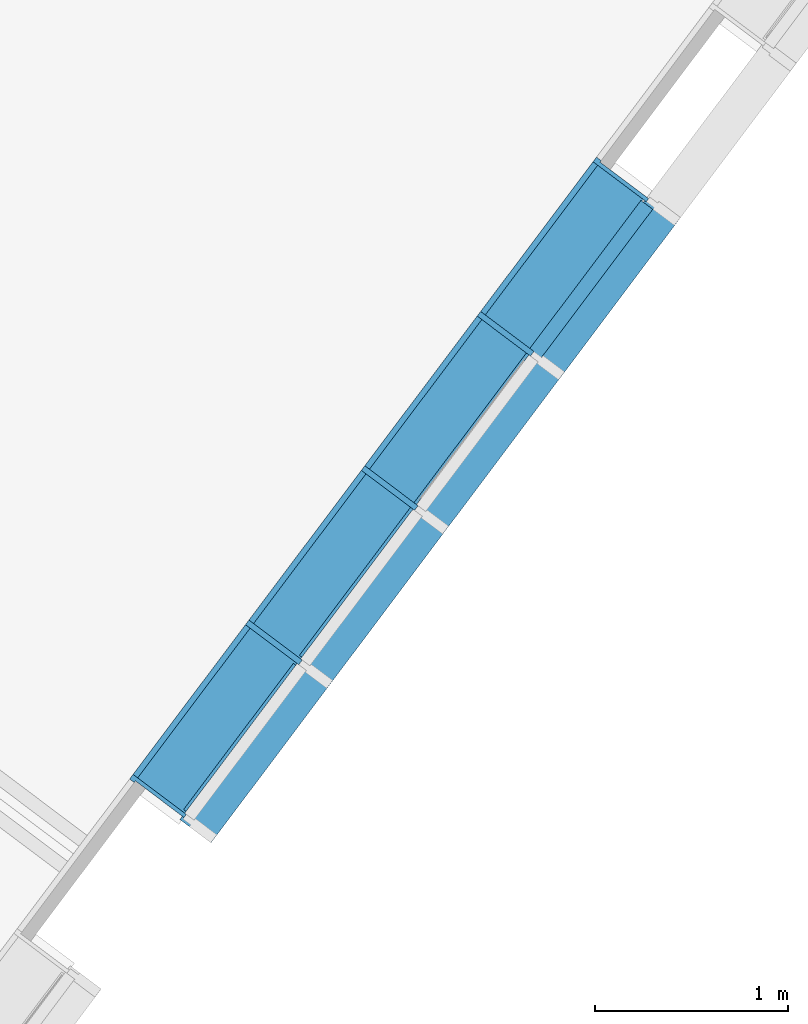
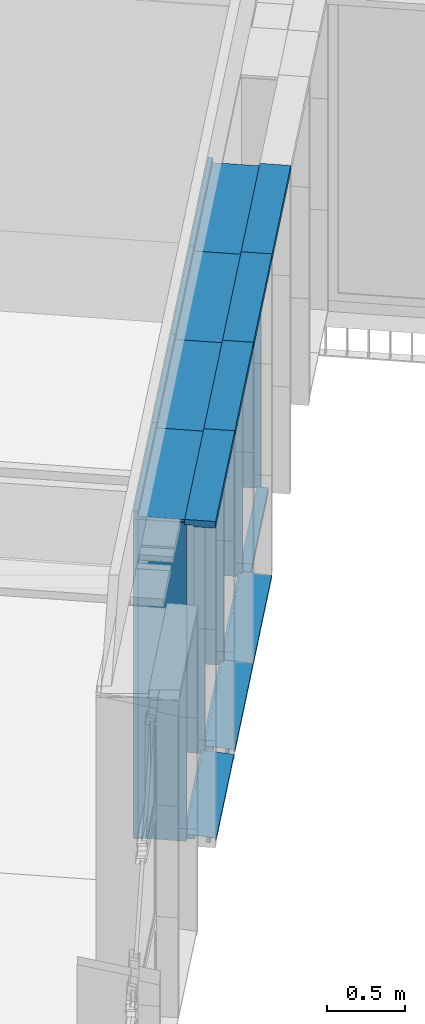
# One storey, part 67 of 243: 17 members, 2 elements without a shape of their own.
"""IFC2X3 building model written with IfcOpenShell, lengths in metres."""

from ifc_helpers import new_model, entity, si_unit, converted_unit, derived_unit, direction, frame, frame_2d, origin, origin_2d_with_axis, place, context, subcontext, project, spatial, polyline, circle_curve, parameter, trimmed, segment, composite_curve, rectangle, outline, extrude, source, transform, mapped, material, type_object, type_shapes, element, aggregate, save


model = new_model("IFC2X3")

# Units and contexts
model_context = context("Model", 3, precision=1e-05, world=origin(), true_north=direction((6.123031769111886e-17, 1.0)))
body_context = subcontext(model_context, "Body", "Model", "MODEL_VIEW")
ifc_project = project(units=[si_unit("LENGTHUNIT", "METRE"), si_unit("AREAUNIT", "SQUARE_METRE"), si_unit("VOLUMEUNIT", "CUBIC_METRE"), converted_unit("PLANEANGLEUNIT", "DEGREE", entity("IfcRatioMeasure", 0.017453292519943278), si_unit("PLANEANGLEUNIT", "RADIAN"), dimensions=[0, 0, 0, 0, 0, 0, 0]), si_unit("MASSUNIT", "GRAM", prefix="KILO"), derived_unit("MASSDENSITYUNIT", [(si_unit("MASSUNIT", "GRAM", prefix="KILO"), 1), (si_unit("LENGTHUNIT", "METRE"), -3)]), derived_unit("IONCONCENTRATIONUNIT", [(si_unit("MASSUNIT", "GRAM", prefix="KILO"), 1), (si_unit("LENGTHUNIT", "METRE"), -3)]), derived_unit("MOMENTOFINERTIAUNIT", [(si_unit("LENGTHUNIT", "METRE"), 4)]), si_unit("TIMEUNIT", "SECOND"), si_unit("FREQUENCYUNIT", "HERTZ"), si_unit("THERMODYNAMICTEMPERATUREUNIT", "DEGREE_CELSIUS"), derived_unit("THERMALTRANSMITTANCEUNIT", [(si_unit("MASSUNIT", "GRAM", prefix="KILO"), 1), (si_unit("THERMODYNAMICTEMPERATUREUNIT", "KELVIN"), -1), (si_unit("TIMEUNIT", "SECOND"), -3)]), derived_unit("THERMALCONDUCTANCEUNIT", [(si_unit("MASSUNIT", "GRAM", prefix="KILO"), 1), (si_unit("THERMODYNAMICTEMPERATUREUNIT", "KELVIN"), -1), (si_unit("TIMEUNIT", "SECOND"), -3), (si_unit("LENGTHUNIT", "METRE"), 1)]), derived_unit("VOLUMETRICFLOWRATEUNIT", [(si_unit("LENGTHUNIT", "METRE"), 3), (si_unit("TIMEUNIT", "SECOND"), -1)]), derived_unit("MASSFLOWRATEUNIT", [(si_unit("MASSUNIT", "GRAM", prefix="KILO"), 1), (si_unit("TIMEUNIT", "SECOND"), -1)]), derived_unit("ROTATIONALFREQUENCYUNIT", [(si_unit("TIMEUNIT", "SECOND"), -1)]), si_unit("ELECTRICCURRENTUNIT", "AMPERE"), si_unit("ELECTRICVOLTAGEUNIT", "VOLT"), si_unit("POWERUNIT", "WATT"), si_unit("FORCEUNIT", "NEWTON", prefix="KILO"), si_unit("ILLUMINANCEUNIT", "LUX"), si_unit("LUMINOUSFLUXUNIT", "LUMEN"), si_unit("LUMINOUSINTENSITYUNIT", "CANDELA"), derived_unit("USERDEFINED", [(si_unit("MASSUNIT", "GRAM", prefix="KILO"), -1), (si_unit("LENGTHUNIT", "METRE"), -2), (si_unit("TIMEUNIT", "SECOND"), 3), (si_unit("LUMINOUSFLUXUNIT", "LUMEN"), 1)]), derived_unit("USERDEFINED", [(si_unit("MASSUNIT", "GRAM", prefix="KILO"), 1), (si_unit("TIMEUNIT", "SECOND"), -3), (si_unit("LENGTHUNIT", "METRE"), 3), (si_unit("ELECTRICCURRENTUNIT", "AMPERE"), -2)]), derived_unit("SOUNDPOWERUNIT", [(si_unit("MASSUNIT", "GRAM", prefix="KILO"), 1), (si_unit("TIMEUNIT", "SECOND"), -3), (si_unit("LENGTHUNIT", "METRE"), 2)]), derived_unit("SOUNDPRESSUREUNIT", [(si_unit("MASSUNIT", "GRAM", prefix="KILO"), 1), (si_unit("LENGTHUNIT", "METRE"), -1), (si_unit("TIMEUNIT", "SECOND"), -2)]), derived_unit("LINEARVELOCITYUNIT", [(si_unit("LENGTHUNIT", "METRE"), 1), (si_unit("TIMEUNIT", "SECOND"), -1)]), si_unit("PRESSUREUNIT", "PASCAL"), derived_unit("USERDEFINED", [(si_unit("MASSUNIT", "GRAM", prefix="KILO"), 1), (si_unit("LENGTHUNIT", "METRE"), -2), (si_unit("TIMEUNIT", "SECOND"), -2)]), derived_unit("LINEARFORCEUNIT", [(si_unit("MASSUNIT", "GRAM", prefix="KILO"), 1), (si_unit("TIMEUNIT", "SECOND"), -2)]), derived_unit("PLANARFORCEUNIT", [(si_unit("MASSUNIT", "GRAM", prefix="KILO"), 1), (si_unit("LENGTHUNIT", "METRE"), -1), (si_unit("TIMEUNIT", "SECOND"), -2)]), derived_unit("SPECIFICHEATCAPACITYUNIT", [(si_unit("THERMODYNAMICTEMPERATUREUNIT", "KELVIN"), -1), (si_unit("LENGTHUNIT", "METRE"), 2), (si_unit("TIMEUNIT", "SECOND"), -2)]), derived_unit("HEATINGVALUEUNIT", [(si_unit("LENGTHUNIT", "METRE"), 2), (si_unit("TIMEUNIT", "SECOND"), -2)]), derived_unit("VAPORPERMEABILITYUNIT", [(si_unit("LENGTHUNIT", "METRE"), -1), (si_unit("TIMEUNIT", "SECOND"), 1)]), derived_unit("DYNAMICVISCOSITYUNIT", [(si_unit("MASSUNIT", "GRAM", prefix="KILO"), 1), (si_unit("TIMEUNIT", "SECOND"), -1), (si_unit("LENGTHUNIT", "METRE"), -1)]), derived_unit("THERMALEXPANSIONCOEFFICIENTUNIT", [(si_unit("THERMODYNAMICTEMPERATUREUNIT", "KELVIN"), -1)]), derived_unit("MODULUSOFELASTICITYUNIT", [(si_unit("MASSUNIT", "GRAM", prefix="KILO"), 1), (si_unit("LENGTHUNIT", "METRE"), -1), (si_unit("TIMEUNIT", "SECOND"), -2)]), derived_unit("ISOTHERMALMOISTURECAPACITYUNIT", [(si_unit("LENGTHUNIT", "METRE"), 3), (si_unit("MASSUNIT", "GRAM", prefix="KILO"), -1)]), derived_unit("MOISTUREDIFFUSIVITYUNIT", [(si_unit("TIMEUNIT", "SECOND"), -1), (si_unit("LENGTHUNIT", "METRE"), 2)])], contexts=[model_context])

# Site, building, storey
site_placement = place(None, frame((0.0, 0.0, 235.0), z_axis=(0.0, 0.0, 1.0), x_axis=(-0.7996477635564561, 0.6004693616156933, 0.0)))
site = spatial("IfcSite", under=ifc_project, at=site_placement, Name="Default", CompositionType="ELEMENT")
building_placement = place(site_placement, origin())
building = spatial("IfcBuilding", under=site, at=building_placement, CompositionType="ELEMENT")
storey_placement = place(building_placement, origin())
storey = spatial("IfcBuildingStorey", under=building, at=storey_placement, Name="P0- Escola", CompositionType="ELEMENT", Elevation=0.0)

# Curtain wall, members
curtain_wall_type_1 = type_object("IfcCurtainWallType", Name="Muro cortina:MC- EXT- MC2", PredefinedType="NOTDEFINED")
curtain_wall_1_placement = place(storey_placement, origin())
curtain_wall_1 = element("IfcCurtainWall", 1, at=curtain_wall_1_placement, inside=storey, type_object=curtain_wall_type_1, Name="Muro cortina:MC- EXT- MC2", ObjectType="Muro cortina:MC- EXT- MC2")
ifc_material_1 = material(Name="_Alumini- T1- Perfil")
member_type_1 = type_object("IfcMemberType", Name="Montante rectangular:MC- Alu- 140x52,5 cm- Fa patis- Superior", PredefinedType="MULLION", material=ifc_material_1)
shared_shape_1 = source(origin(), body_context, "Body", "SweptSolid", [
    extrude(outline(polyline([(-0.11366666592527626, -0.021249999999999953), (0.026333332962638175, -0.021249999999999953), (0.026333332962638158, -0.010000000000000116), (0.0873333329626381, -0.010000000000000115), (0.0873333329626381, 0.03125000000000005), (-0.11366666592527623, 0.031250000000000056), (-0.11366666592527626, -0.021249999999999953)])), frame((-0.031250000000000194, 0.0273333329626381, -1.0), z_axis=(0.0, 0.0, 1.0), x_axis=(0.0, -1.0, 0.0)), (0.0, 0.0, 1.0), 0.9999999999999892),
])
type_shapes(member_type_1, [shared_shape_1])
member_1_placement = place(curtain_wall_1_placement, frame((41.04514768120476, -32.415191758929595, 2.545), z_axis=(0.0, -1.0, 0.0), x_axis=(0.0, 0.0, 1.0)))
member_1 = element("IfcMember", 2, at=member_1_placement, type_object=member_type_1, material=ifc_material_1, Name="Montante rectangular:MC- Alu- 140x52,5 cm- Fa patis- Superior", ObjectType="Montante rectangular:MC- Alu- 140x52,5 cm- Fa patis- Superior", context=body_context, shape_type="MappedRepresentation", body=[
    mapped(shared_shape_1, transform((0.0, 0.0, 0.0), scale=1.0)),
])
member_2_placement = place(curtain_wall_1_placement, frame((41.04514768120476, -33.415191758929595, 2.545), z_axis=(0.0, -1.0, 0.0), x_axis=(0.0, 0.0, 1.0)))
member_2 = element("IfcMember", 3, at=member_2_placement, type_object=member_type_1, material=ifc_material_1, Name="Montante rectangular:MC- Alu- 140x52,5 cm- Fa patis- Superior", ObjectType="Montante rectangular:MC- Alu- 140x52,5 cm- Fa patis- Superior", context=body_context, shape_type="MappedRepresentation", body=[
    mapped(shared_shape_1, transform((0.0, 0.0, 0.0), scale=1.0)),
])
member_3_placement = place(curtain_wall_1_placement, frame((41.04514768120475, -34.41519175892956, 2.545), z_axis=(0.0, -1.0, 0.0), x_axis=(0.0, 0.0, 1.0)))
member_3 = element("IfcMember", 4, at=member_3_placement, type_object=member_type_1, material=ifc_material_1, Name="Montante rectangular:MC- Alu- 140x52,5 cm- Fa patis- Superior", ObjectType="Montante rectangular:MC- Alu- 140x52,5 cm- Fa patis- Superior", context=body_context, shape_type="MappedRepresentation", body=[
    mapped(shared_shape_1, transform((0.0, 0.0, 0.0), scale=1.0)),
])
member_type_2 = type_object("IfcMemberType", Name="Montante rectangular:MC- Alu- 140x52,5 cm- Fa patis- inferior", PredefinedType="MULLION", material=ifc_material_1)
shared_shape_2 = source(origin(), body_context, "Body", "SweptSolid", [
    extrude(outline(composite_curve([segment(polyline([(0.1278672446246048, -0.02586710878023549), (0.14416724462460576, -0.025867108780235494)]), True, "CONTINUOUS"), segment(polyline([(0.14416724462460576, -0.025867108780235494), (0.1441672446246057, 0.009132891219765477)]), True, "CONTINUOUS"), segment(polyline([(0.1441672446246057, 0.009132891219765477), (0.06786724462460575, 0.009132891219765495)]), True, "CONTINUOUS"), segment(polyline([(0.06786724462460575, 0.009132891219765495), (0.06786724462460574, -0.021159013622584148)]), True, "CONTINUOUS"), segment(polyline([(0.06786724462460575, -0.02115901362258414), (-0.030132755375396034, -0.012332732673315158)]), True, "CONTINUOUS"), segment(polyline([(-0.03013275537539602, -0.012332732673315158), (-0.030132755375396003, 0.027132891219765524)]), True, "CONTINUOUS"), segment(polyline([(-0.030132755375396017, 0.02713289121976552), (-0.0021327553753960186, 0.02713289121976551)]), True, "CONTINUOUS"), segment(polyline([(-0.0021327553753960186, 0.027132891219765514), (-0.0021327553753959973, 0.029132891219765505)]), True, "CONTINUOUS"), segment(polyline([(-0.0021327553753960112, 0.029132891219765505), (-0.032132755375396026, 0.029132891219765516)]), True, "CONTINUOUS"), segment(polyline([(-0.032132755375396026, 0.029132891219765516), (-0.03213275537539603, -0.012152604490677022)]), True, "CONTINUOUS"), segment(polyline([(-0.03213275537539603, -0.012152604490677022), (-0.0701327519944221, -0.008730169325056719)]), True, "CONTINUOUS"), segment(polyline([(-0.0701327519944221, -0.008730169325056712), (-0.0701327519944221, 0.005766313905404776)]), True, "CONTINUOUS"), segment(trimmed(circle_curve(frame_2d((-0.0696327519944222, 0.0057663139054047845), x_axis=(-1.0, 0.0)), 0.0004999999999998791), [parameter(269.999999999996)], [parameter(0.0)], True, "PARAMETER"), False, "CONTINUOUS"), segment(polyline([(-0.0696327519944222, 0.00626631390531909), (-0.06213275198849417, 0.006266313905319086)]), True, "CONTINUOUS"), segment(polyline([(-0.06213275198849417, 0.006266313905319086), (-0.06213275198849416, 0.008266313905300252)]), True, "CONTINUOUS"), segment(polyline([(-0.06213275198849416, 0.008266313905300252), (-0.07013275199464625, 0.008266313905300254)]), True, "CONTINUOUS"), segment(trimmed(circle_curve(frame_2d((-0.07013275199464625, 0.006266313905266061), x_axis=(0.0, 1.0)), 0.0020000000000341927), [parameter(0.0)], [parameter(90.00000002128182)], True, "PARAMETER"), True, "CONTINUOUS"), segment(polyline([(-0.07213275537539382, 0.006266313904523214), (-0.07213275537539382, -0.008730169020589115)]), True, "CONTINUOUS"), segment(trimmed(circle_curve(frame_2d((-0.07013275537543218, -0.008730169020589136), x_axis=(-1.0, 0.0)), 0.0019999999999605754), [parameter(0.0)], [parameter(84.85359280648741)], True, "PARAMETER"), True, "CONTINUOUS"), segment(polyline([(-0.07031215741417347, -0.01072210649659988), (0.06786724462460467, -0.023167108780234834)]), True, "CONTINUOUS"), segment(polyline([(0.06786724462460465, -0.023167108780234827), (0.12786724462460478, -0.023167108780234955)]), True, "CONTINUOUS"), segment(polyline([(0.12786724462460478, -0.023167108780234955), (0.1278672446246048, -0.02586710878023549)]), True, "CONTINUOUS")], self_intersect=False)), frame((-0.029132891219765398, 0.06786724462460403, -0.9737499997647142), z_axis=(0.0, 0.0, 1.0), x_axis=(0.0, -1.0, 0.0)), (0.0, 0.0, 1.0), 0.9737499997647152),
])
type_shapes(member_type_2, [shared_shape_2])
member_4_placement = place(curtain_wall_1_placement, frame((41.04514768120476, -31.441441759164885, -0.02), z_axis=(0.0, 1.0, 0.0), x_axis=(0.0, 0.0, -1.0)))
member_4 = element("IfcMember", 5, at=member_4_placement, type_object=member_type_2, material=ifc_material_1, Name="Montante rectangular:MC- Alu- 140x52,5 cm- Fa patis- inferior", ObjectType="Montante rectangular:MC- Alu- 140x52,5 cm- Fa patis- inferior", context=body_context, shape_type="MappedRepresentation", body=[
    mapped(shared_shape_2, transform((0.0, 0.0, 0.0), scale=1.0)),
])

curtain_wall_type_2 = type_object("IfcCurtainWallType", Name="Muro cortina:MC- INT- k7- Aules infantil", PredefinedType="NOTDEFINED")
curtain_wall_2_placement = place(storey_placement, origin())
curtain_wall_2 = element("IfcCurtainWall", 6, at=curtain_wall_2_placement, inside=storey, type_object=curtain_wall_type_2, Name="Muro cortina:MC- INT- k7- Aules infantil", ObjectType="Muro cortina:MC- INT- k7- Aules infantil")
ifc_material_2 = material(Name="_Fusta massisa- T1")
member_type_3 = type_object("IfcMemberType", Name="Montante rectangular:MC- Fusta- 35x3 cm- Centre", PredefinedType="MULLION", material=ifc_material_2)
shared_shape_3 = source(origin(), body_context, "Body", "SweptSolid", [
    extrude(rectangle(XDim=0.3450000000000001, YDim=0.030000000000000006, at=frame_2d((0.0, 1.3964523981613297e-16), x_axis=(1.0, 0.0))), frame((0.0, 0.07750000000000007, -2.5049999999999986), z_axis=(0.0, 0.0, 1.0), x_axis=(0.0, -1.0, 0.0)), (0.0, 0.0, 1.0), 2.5049999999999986),
])
type_shapes(member_type_3, [shared_shape_3])
member_5_placement = place(curtain_wall_2_placement, frame((41.345147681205, -31.415191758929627, 0.0), z_axis=(0.0, 0.0, -1.0), x_axis=(0.0, -1.0, 0.0)))
member_5 = element("IfcMember", 7, at=member_5_placement, type_object=member_type_3, material=ifc_material_2, Name="Montante rectangular:MC- Fusta- 35x3 cm- Centre", ObjectType="Montante rectangular:MC- Fusta- 35x3 cm- Centre", context=body_context, shape_type="MappedRepresentation", body=[
    mapped(shared_shape_3, transform((0.0, 0.0, 0.0), scale=1.0)),
])
member_6_placement = place(curtain_wall_2_placement, frame((41.345147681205, -32.41519175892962, 0.0), z_axis=(0.0, 0.0, -1.0), x_axis=(0.0, -1.0, 0.0)))
member_6 = element("IfcMember", 8, at=member_6_placement, type_object=member_type_3, material=ifc_material_2, Name="Montante rectangular:MC- Fusta- 35x3 cm- Centre", ObjectType="Montante rectangular:MC- Fusta- 35x3 cm- Centre", context=body_context, shape_type="MappedRepresentation", body=[
    mapped(shared_shape_3, transform((0.0, 0.0, 0.0), scale=1.0)),
])
member_7_placement = place(curtain_wall_2_placement, frame((41.345147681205, -33.41519175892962, 0.0), z_axis=(0.0, 0.0, -1.0), x_axis=(0.0, -1.0, 0.0)))
member_7 = element("IfcMember", 9, at=member_7_placement, type_object=member_type_3, material=ifc_material_2, Name="Montante rectangular:MC- Fusta- 35x3 cm- Centre", ObjectType="Montante rectangular:MC- Fusta- 35x3 cm- Centre", context=body_context, shape_type="MappedRepresentation", body=[
    mapped(shared_shape_3, transform((0.0, 0.0, 0.0), scale=1.0)),
])
member_type_4 = type_object("IfcMemberType", Name="Montante rectangular:MC- Fusta- 35x3 cm- Pati aules- Remat superior", PredefinedType="MULLION", material=ifc_material_2)
shared_shape_4 = source(origin(), body_context, "Body", "SweptSolid", [
    extrude(outline(polyline([(-0.21333333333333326, -0.02666666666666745), (0.1216666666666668, -0.02666666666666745), (0.12166666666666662, 0.03333333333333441), (0.09166666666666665, 0.03333333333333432), (0.09166666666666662, -0.006666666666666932), (-0.2133333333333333, -0.006666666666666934), (-0.21333333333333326, -0.02666666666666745)])), frame((-0.033333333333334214, 0.026666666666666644, -1.0), z_axis=(0.0, 0.0, 1.0), x_axis=(0.0, -1.0, 0.0)), (0.0, 0.0, 1.0), 0.9999999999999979),
])
type_shapes(member_type_4, [shared_shape_4])
member_8_placement = place(curtain_wall_2_placement, frame((41.345147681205, -32.41519175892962, 2.565), z_axis=(0.0, -1.0, 0.0), x_axis=(0.0, 0.0, 1.0)))
member_8 = element("IfcMember", 10, at=member_8_placement, type_object=member_type_4, material=ifc_material_2, Name="Montante rectangular:MC- Fusta- 35x3 cm- Pati aules- Remat superior", ObjectType="Montante rectangular:MC- Fusta- 35x3 cm- Pati aules- Remat superior", context=body_context, shape_type="MappedRepresentation", body=[
    mapped(shared_shape_4, transform((0.0, 0.0, 0.0), scale=1.0)),
])
member_9_placement = place(curtain_wall_2_placement, frame((41.345147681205, -33.41519175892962, 2.565), z_axis=(0.0, -1.0, 0.0), x_axis=(0.0, 0.0, 1.0)))
member_9 = element("IfcMember", 11, at=member_9_placement, type_object=member_type_4, material=ifc_material_2, Name="Montante rectangular:MC- Fusta- 35x3 cm- Pati aules- Remat superior", ObjectType="Montante rectangular:MC- Fusta- 35x3 cm- Pati aules- Remat superior", context=body_context, shape_type="MappedRepresentation", body=[
    mapped(shared_shape_4, transform((0.0, 0.0, 0.0), scale=1.0)),
])
member_type_5 = type_object("IfcMemberType", Name="Montante rectangular:MC- Fusta- 35x3 cm- Pati aules- Remat dreta", PredefinedType="MULLION", material=ifc_material_2)
shared_shape_5 = source(origin(), body_context, "Body", "SweptSolid", [
    extrude(outline(polyline([(-0.22, -0.01666666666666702), (0.12500000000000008, -0.01666666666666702), (0.12500000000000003, 0.013333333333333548), (0.09500000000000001, 0.013333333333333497), (0.09499999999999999, 0.003333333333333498), (-0.22, 0.003333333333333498), (-0.22, -0.01666666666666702)])), frame((0.0016666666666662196, 0.03000000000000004, -2.504999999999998), z_axis=(0.0, 0.0, 1.0), x_axis=(0.0, -1.0, 0.0)), (0.0, 0.0, 1.0), 2.5049999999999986),
])
type_shapes(member_type_5, [shared_shape_5])
member_10_placement = place(curtain_wall_2_placement, frame((41.345147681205, -34.41519175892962, 0.0), z_axis=(0.0, 0.0, -1.0), x_axis=(0.0, -1.0, 0.0)))
member_10 = element("IfcMember", 12, at=member_10_placement, type_object=member_type_5, material=ifc_material_2, Name="Montante rectangular:MC- Fusta- 35x3 cm- Pati aules- Remat dreta", ObjectType="Montante rectangular:MC- Fusta- 35x3 cm- Pati aules- Remat dreta", context=body_context, shape_type="MappedRepresentation", body=[
    mapped(shared_shape_5, transform((0.0, 0.0, 0.0), scale=1.0)),
])
member_type_6 = type_object("IfcMemberType", Name="Montante rectangular:MC- Fusta- 35x3 cm- Pati aules- Remat esquerra", PredefinedType="MULLION", material=ifc_material_2)
shared_shape_6 = source(origin(), body_context, "Body", "SweptSolid", [
    extrude(outline(polyline([(0.09500000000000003, -0.013333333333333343), (0.12500000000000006, -0.013333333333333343), (0.12500000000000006, 0.01666666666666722), (-0.22000000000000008, 0.016666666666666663), (-0.22000000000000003, -0.0033333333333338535), (0.09499999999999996, -0.003333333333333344), (0.09500000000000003, -0.013333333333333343)])), frame((-0.0016666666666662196, 0.03000000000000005, -2.504999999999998), z_axis=(0.0, 0.0, 1.0), x_axis=(0.0, -1.0, 0.0)), (0.0, 0.0, 1.0), 2.5049999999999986),
])
type_shapes(member_type_6, [shared_shape_6])
member_11_placement = place(curtain_wall_2_placement, frame((41.345147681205, -30.415191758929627, 0.0), z_axis=(0.0, 0.0, -1.0), x_axis=(0.0, -1.0, 0.0)))
member_11 = element("IfcMember", 13, at=member_11_placement, type_object=member_type_6, material=ifc_material_2, Name="Montante rectangular:MC- Fusta- 35x3 cm- Pati aules- Remat esquerra", ObjectType="Montante rectangular:MC- Fusta- 35x3 cm- Pati aules- Remat esquerra", context=body_context, shape_type="MappedRepresentation", body=[
    mapped(shared_shape_6, transform((0.0, 0.0, 0.0), scale=1.0)),
])
member_type_7 = type_object("IfcMemberType", Name="Montante rectangular:MC- Fusta- 35x3 cm- Pati aules- Remat superior", PredefinedType="MULLION", material=ifc_material_2)
shared_shape_7 = source(origin(), body_context, "Body", "SweptSolid", [
    extrude(outline(polyline([(-0.21333333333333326, -0.02666666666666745), (0.1216666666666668, -0.02666666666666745), (0.12166666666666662, 0.03333333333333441), (0.09166666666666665, 0.03333333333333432), (0.09166666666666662, -0.006666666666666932), (-0.2133333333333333, -0.006666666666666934), (-0.21333333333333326, -0.02666666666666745)])), frame((-0.033333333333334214, 0.026666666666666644, -1.0), z_axis=(0.0, 0.0, 1.0), x_axis=(0.0, -1.0, 0.0)), (0.0, 0.0, 1.0), 0.9999999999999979),
])
type_shapes(member_type_7, [shared_shape_7])
member_12_placement = place(curtain_wall_2_placement, frame((41.345147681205, -31.415191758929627, 2.565), z_axis=(0.0, -1.0, 0.0), x_axis=(0.0, 0.0, 1.0)))
member_12 = element("IfcMember", 14, at=member_12_placement, type_object=member_type_7, material=ifc_material_2, Name="Montante rectangular:MC- Fusta- 35x3 cm- Pati aules- Remat superior", ObjectType="Montante rectangular:MC- Fusta- 35x3 cm- Pati aules- Remat superior", context=body_context, shape_type="MappedRepresentation", body=[
    mapped(shared_shape_7, transform((0.0, 0.0, 0.0), scale=1.0)),
])
member_type_8 = type_object("IfcMemberType", Name="Montante rectangular:MC- Fusta- 35x3 cm- Pati aules- Remat superior", PredefinedType="MULLION", material=ifc_material_2)
shared_shape_8 = source(origin(), body_context, "Body", "SweptSolid", [
    extrude(outline(polyline([(-0.21333333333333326, -0.02666666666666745), (0.1216666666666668, -0.02666666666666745), (0.12166666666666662, 0.03333333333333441), (0.09166666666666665, 0.03333333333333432), (0.09166666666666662, -0.006666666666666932), (-0.2133333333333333, -0.006666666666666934), (-0.21333333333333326, -0.02666666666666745)])), frame((-0.033333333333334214, 0.026666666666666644, -1.0), z_axis=(0.0, 0.0, 1.0), x_axis=(0.0, -1.0, 0.0)), (0.0, 0.0, 1.0), 0.9999999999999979),
])
type_shapes(member_type_8, [shared_shape_8])
member_13_placement = place(curtain_wall_2_placement, frame((41.345147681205, -34.41519175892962, 2.565), z_axis=(0.0, -1.0, 0.0), x_axis=(0.0, 0.0, 1.0)))
member_13 = element("IfcMember", 15, at=member_13_placement, type_object=member_type_8, material=ifc_material_2, Name="Montante rectangular:MC- Fusta- 35x3 cm- Pati aules- Remat superior", ObjectType="Montante rectangular:MC- Fusta- 35x3 cm- Pati aules- Remat superior", context=body_context, shape_type="MappedRepresentation", body=[
    mapped(shared_shape_8, transform((0.0, 0.0, 0.0), scale=1.0)),
])
aggregate(curtain_wall_2, [member_11, member_12, member_5, member_8, member_6, member_9, member_7, member_13, member_10])

# Member
member_type_9 = type_object("IfcMemberType", Name="Montante rectangular:MC- Alu- 140x52,5 cm- Fa patis- Superior", PredefinedType="MULLION", material=ifc_material_1)
shared_shape_9 = source(origin(), body_context, "Body", "SweptSolid", [
    extrude(outline(polyline([(-0.11366666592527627, -0.021249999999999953), (0.02633333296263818, -0.021249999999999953), (0.02633333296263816, -0.010000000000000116), (0.08733333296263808, -0.010000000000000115), (0.08733333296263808, 0.03125000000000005), (-0.11366666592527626, 0.031250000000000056), (-0.11366666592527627, -0.021249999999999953)])), frame((-0.031250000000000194, 0.027333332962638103, -1.0262500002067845), z_axis=(0.0, 0.0, 1.0), x_axis=(0.0, -1.0, 0.0)), (0.0, 0.0, 1.0), 1.0262500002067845),
])
type_shapes(member_type_9, [shared_shape_9])
member_14_placement = place(curtain_wall_1_placement, frame((41.04514768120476, -31.41519175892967, 2.545), z_axis=(0.0, -1.0, 0.0), x_axis=(0.0, 0.0, 1.0)))
member_14 = element("IfcMember", 16, at=member_14_placement, type_object=member_type_9, material=ifc_material_1, Name="Montante rectangular:MC- Alu- 140x52,5 cm- Fa patis- Superior", ObjectType="Montante rectangular:MC- Alu- 140x52,5 cm- Fa patis- Superior", context=body_context, shape_type="MappedRepresentation", body=[
    mapped(shared_shape_9, transform((0.0, 0.0, 0.0), scale=1.0)),
])

member_type_10 = type_object("IfcMemberType", Name="Montante rectangular:MC- Alu- 140x52,5 cm- Fa patis- inferior", PredefinedType="MULLION", material=ifc_material_1)
shared_shape_10 = source(origin(), body_context, "Body", "SweptSolid", [
    extrude(outline(composite_curve([segment(polyline([(0.1278672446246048, -0.02586710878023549), (0.14416724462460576, -0.025867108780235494)]), True, "CONTINUOUS"), segment(polyline([(0.14416724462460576, -0.025867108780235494), (0.1441672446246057, 0.009132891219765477)]), True, "CONTINUOUS"), segment(polyline([(0.1441672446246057, 0.009132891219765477), (0.06786724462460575, 0.009132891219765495)]), True, "CONTINUOUS"), segment(polyline([(0.06786724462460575, 0.009132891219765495), (0.06786724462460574, -0.021159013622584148)]), True, "CONTINUOUS"), segment(polyline([(0.06786724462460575, -0.02115901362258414), (-0.030132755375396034, -0.012332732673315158)]), True, "CONTINUOUS"), segment(polyline([(-0.03013275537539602, -0.012332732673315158), (-0.030132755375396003, 0.027132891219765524)]), True, "CONTINUOUS"), segment(polyline([(-0.030132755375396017, 0.02713289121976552), (-0.0021327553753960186, 0.02713289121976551)]), True, "CONTINUOUS"), segment(polyline([(-0.0021327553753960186, 0.027132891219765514), (-0.0021327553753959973, 0.029132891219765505)]), True, "CONTINUOUS"), segment(polyline([(-0.0021327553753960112, 0.029132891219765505), (-0.032132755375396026, 0.029132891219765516)]), True, "CONTINUOUS"), segment(polyline([(-0.032132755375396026, 0.029132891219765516), (-0.03213275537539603, -0.012152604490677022)]), True, "CONTINUOUS"), segment(polyline([(-0.03213275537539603, -0.012152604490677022), (-0.0701327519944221, -0.008730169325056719)]), True, "CONTINUOUS"), segment(polyline([(-0.0701327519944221, -0.008730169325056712), (-0.0701327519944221, 0.005766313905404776)]), True, "CONTINUOUS"), segment(trimmed(circle_curve(frame_2d((-0.0696327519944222, 0.0057663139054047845), x_axis=(-1.0, 0.0)), 0.0004999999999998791), [parameter(269.999999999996)], [parameter(0.0)], True, "PARAMETER"), False, "CONTINUOUS"), segment(polyline([(-0.0696327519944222, 0.00626631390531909), (-0.06213275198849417, 0.006266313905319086)]), True, "CONTINUOUS"), segment(polyline([(-0.06213275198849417, 0.006266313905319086), (-0.06213275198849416, 0.008266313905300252)]), True, "CONTINUOUS"), segment(polyline([(-0.06213275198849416, 0.008266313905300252), (-0.07013275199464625, 0.008266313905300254)]), True, "CONTINUOUS"), segment(trimmed(circle_curve(frame_2d((-0.07013275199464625, 0.006266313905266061), x_axis=(0.0, 1.0)), 0.0020000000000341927), [parameter(0.0)], [parameter(90.00000002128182)], True, "PARAMETER"), True, "CONTINUOUS"), segment(polyline([(-0.07213275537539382, 0.006266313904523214), (-0.07213275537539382, -0.008730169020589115)]), True, "CONTINUOUS"), segment(trimmed(circle_curve(frame_2d((-0.07013275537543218, -0.008730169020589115), x_axis=(-1.0, 0.0)), 0.0019999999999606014), [parameter(0.0)], [parameter(84.8535928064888)], True, "PARAMETER"), True, "CONTINUOUS"), segment(polyline([(-0.07031215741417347, -0.01072210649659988), (0.06786724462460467, -0.023167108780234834)]), True, "CONTINUOUS"), segment(polyline([(0.06786724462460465, -0.023167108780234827), (0.12786724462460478, -0.023167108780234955)]), True, "CONTINUOUS"), segment(polyline([(0.12786724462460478, -0.023167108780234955), (0.1278672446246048, -0.02586710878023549)]), True, "CONTINUOUS")], self_intersect=False)), frame((-0.029132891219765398, 0.06786724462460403, -1.0), z_axis=(0.0, 0.0, 1.0), x_axis=(0.0, -1.0, 0.0)), (0.0, 0.0, 1.0), 0.9999999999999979),
])
type_shapes(member_type_10, [shared_shape_10])
member_15_placement = place(curtain_wall_1_placement, frame((41.04514768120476, -32.415191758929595, -0.02), z_axis=(0.0, 1.0, 0.0), x_axis=(0.0, 0.0, -1.0)))
member_15 = element("IfcMember", 17, at=member_15_placement, type_object=member_type_10, material=ifc_material_1, Name="Montante rectangular:MC- Alu- 140x52,5 cm- Fa patis- inferior", ObjectType="Montante rectangular:MC- Alu- 140x52,5 cm- Fa patis- inferior", context=body_context, shape_type="MappedRepresentation", body=[
    mapped(shared_shape_10, transform((0.0, 0.0, 0.0), scale=1.0)),
])

member_type_11 = type_object("IfcMemberType", Name="Montante rectangular:MC- Alu- 140x52,5 cm- Fa patis- inferior porta", PredefinedType="MULLION", material=ifc_material_1)
shared_shape_11 = source(origin(), body_context, "Body", "SweptSolid", [
    extrude(rectangle(XDim=0.07629999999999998, YDim=0.04, at=origin_2d_with_axis()), frame((-0.020000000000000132, -0.0381500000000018, -0.9737499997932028), z_axis=(0.0, 0.0, 1.0), x_axis=(0.0, -1.0, 0.0)), (0.0, 0.0, 1.0), 0.9737499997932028),
])
type_shapes(member_type_11, [shared_shape_11])
member_16_placement = place(curtain_wall_1_placement, frame((41.04514768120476, -33.415191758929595, -0.02), z_axis=(0.0, 1.0, 0.0), x_axis=(0.0, 0.0, -1.0)))
member_16 = element("IfcMember", 18, at=member_16_placement, type_object=member_type_11, material=ifc_material_1, Name="Montante rectangular:MC- Alu- 140x52,5 cm- Fa patis- inferior porta", ObjectType="Montante rectangular:MC- Alu- 140x52,5 cm- Fa patis- inferior porta", context=body_context, shape_type="MappedRepresentation", body=[
    mapped(shared_shape_11, transform((0.0, 0.0, 0.0), scale=1.0)),
])

member_type_12 = type_object("IfcMemberType", Name="Montante rectangular:MC- Alu- 140x52,5 cm- Fa patis- inferior", PredefinedType="MULLION", material=ifc_material_1)
shared_shape_12 = source(origin(), body_context, "Body", "SweptSolid", [
    extrude(outline(composite_curve([segment(polyline([(0.1278672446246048, -0.02586710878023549), (0.14416724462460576, -0.025867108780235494)]), True, "CONTINUOUS"), segment(polyline([(0.14416724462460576, -0.025867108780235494), (0.1441672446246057, 0.009132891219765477)]), True, "CONTINUOUS"), segment(polyline([(0.1441672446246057, 0.009132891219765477), (0.06786724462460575, 0.009132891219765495)]), True, "CONTINUOUS"), segment(polyline([(0.06786724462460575, 0.009132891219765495), (0.06786724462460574, -0.021159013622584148)]), True, "CONTINUOUS"), segment(polyline([(0.06786724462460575, -0.02115901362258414), (-0.030132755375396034, -0.012332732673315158)]), True, "CONTINUOUS"), segment(polyline([(-0.03013275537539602, -0.012332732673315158), (-0.030132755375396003, 0.027132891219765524)]), True, "CONTINUOUS"), segment(polyline([(-0.030132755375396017, 0.02713289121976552), (-0.0021327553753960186, 0.02713289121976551)]), True, "CONTINUOUS"), segment(polyline([(-0.0021327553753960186, 0.027132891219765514), (-0.0021327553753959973, 0.029132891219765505)]), True, "CONTINUOUS"), segment(polyline([(-0.0021327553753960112, 0.029132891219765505), (-0.032132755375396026, 0.029132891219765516)]), True, "CONTINUOUS"), segment(polyline([(-0.032132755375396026, 0.029132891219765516), (-0.03213275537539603, -0.012152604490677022)]), True, "CONTINUOUS"), segment(polyline([(-0.03213275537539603, -0.012152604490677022), (-0.0701327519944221, -0.008730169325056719)]), True, "CONTINUOUS"), segment(polyline([(-0.0701327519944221, -0.008730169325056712), (-0.0701327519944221, 0.005766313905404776)]), True, "CONTINUOUS"), segment(trimmed(circle_curve(frame_2d((-0.0696327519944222, 0.0057663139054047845), x_axis=(-1.0, 0.0)), 0.0004999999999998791), [parameter(269.999999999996)], [parameter(0.0)], True, "PARAMETER"), False, "CONTINUOUS"), segment(polyline([(-0.0696327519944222, 0.00626631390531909), (-0.06213275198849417, 0.006266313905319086)]), True, "CONTINUOUS"), segment(polyline([(-0.06213275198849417, 0.006266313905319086), (-0.06213275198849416, 0.008266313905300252)]), True, "CONTINUOUS"), segment(polyline([(-0.06213275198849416, 0.008266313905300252), (-0.07013275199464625, 0.008266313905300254)]), True, "CONTINUOUS"), segment(trimmed(circle_curve(frame_2d((-0.07013275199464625, 0.006266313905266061), x_axis=(0.0, 1.0)), 0.0020000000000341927), [parameter(0.0)], [parameter(90.00000002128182)], True, "PARAMETER"), True, "CONTINUOUS"), segment(polyline([(-0.07213275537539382, 0.006266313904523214), (-0.07213275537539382, -0.008730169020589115)]), True, "CONTINUOUS"), segment(trimmed(circle_curve(frame_2d((-0.07013275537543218, -0.008730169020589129), x_axis=(-1.0, 0.0)), 0.0019999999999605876), [parameter(0.0)], [parameter(84.85359280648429)], True, "PARAMETER"), True, "CONTINUOUS"), segment(polyline([(-0.07031215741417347, -0.01072210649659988), (0.06786724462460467, -0.023167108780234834)]), True, "CONTINUOUS"), segment(polyline([(0.06786724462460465, -0.023167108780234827), (0.12786724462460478, -0.023167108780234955)]), True, "CONTINUOUS"), segment(polyline([(0.12786724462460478, -0.023167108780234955), (0.1278672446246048, -0.02586710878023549)]), True, "CONTINUOUS")], self_intersect=False)), frame((-0.029132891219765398, 0.06786724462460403, -0.9474999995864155), z_axis=(0.0, 0.0, 1.0), x_axis=(0.0, -1.0, 0.0)), (0.0, 0.0, 1.0), 0.9474999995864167),
])
type_shapes(member_type_12, [shared_shape_12])
member_17_placement = place(curtain_wall_1_placement, frame((41.04514768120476, -30.441441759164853, -0.02), z_axis=(0.0, 1.0, 0.0), x_axis=(0.0, 0.0, -1.0)))
member_17 = element("IfcMember", 19, at=member_17_placement, type_object=member_type_12, material=ifc_material_1, Name="Montante rectangular:MC- Alu- 140x52,5 cm- Fa patis- inferior", ObjectType="Montante rectangular:MC- Alu- 140x52,5 cm- Fa patis- inferior", context=body_context, shape_type="MappedRepresentation", body=[
    mapped(shared_shape_12, transform((0.0, 0.0, 0.0), scale=1.0)),
])

aggregate(curtain_wall_1, [member_14, member_4, member_1, member_15, member_2, member_16, member_17, member_3])

save(model, "model.ifc")
